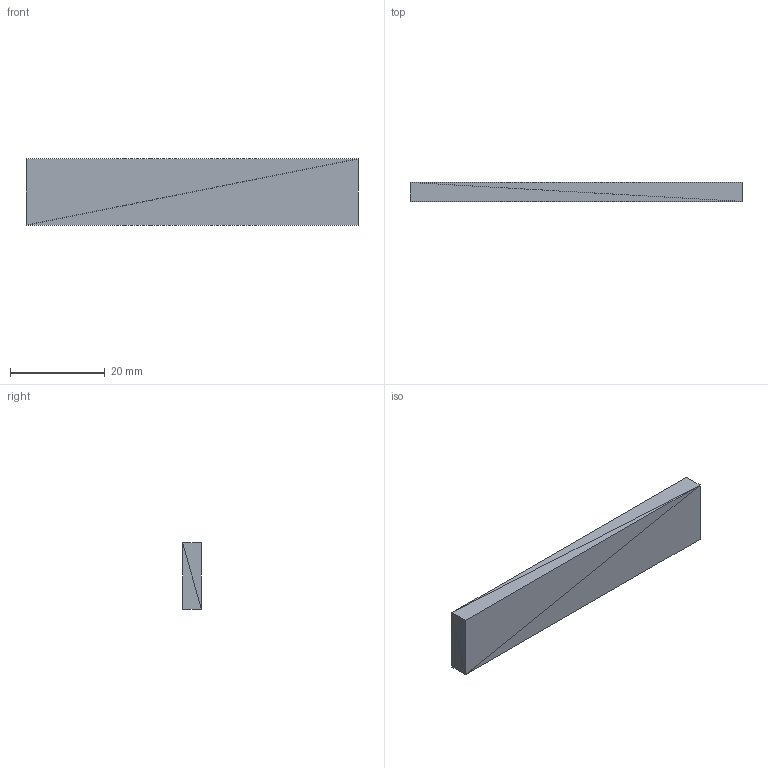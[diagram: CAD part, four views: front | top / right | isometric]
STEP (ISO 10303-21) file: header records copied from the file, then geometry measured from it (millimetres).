
FILE_DESCRIPTION(('Open CASCADE Model'),'2;1');
FILE_NAME('Open CASCADE Shape Model','2026-07-28T00:00:00+00:00',( 'Author'),('Open CASCADE'),'Open CASCADE STEP processor 7.8', 'build123d','Unknown');
FILE_SCHEMA(('AUTOMOTIVE_DESIGN { 1 0 10303 214 1 1 1 1 }'));
Length unit declared in the file: millimetre
Products named in the file (1): SOLID
Bounding box: 70 x 4 x 14 mm (x, y, z)
Volume: 3920 mm3; surface area: 2632 mm2
Topology: 1 solids, 1 shells, 12 faces, 18 edges, 8 vertices
Faces by surface type: plane 12
Entity records: 472 total; most frequent: CARTESIAN_POINT 93, DIRECTION 62, ORIENTED_EDGE 36, LINE 36, VECTOR 36, PCURVE 36, DEFINITIONAL_REPRESENTATION 36, EDGE_CURVE 18
